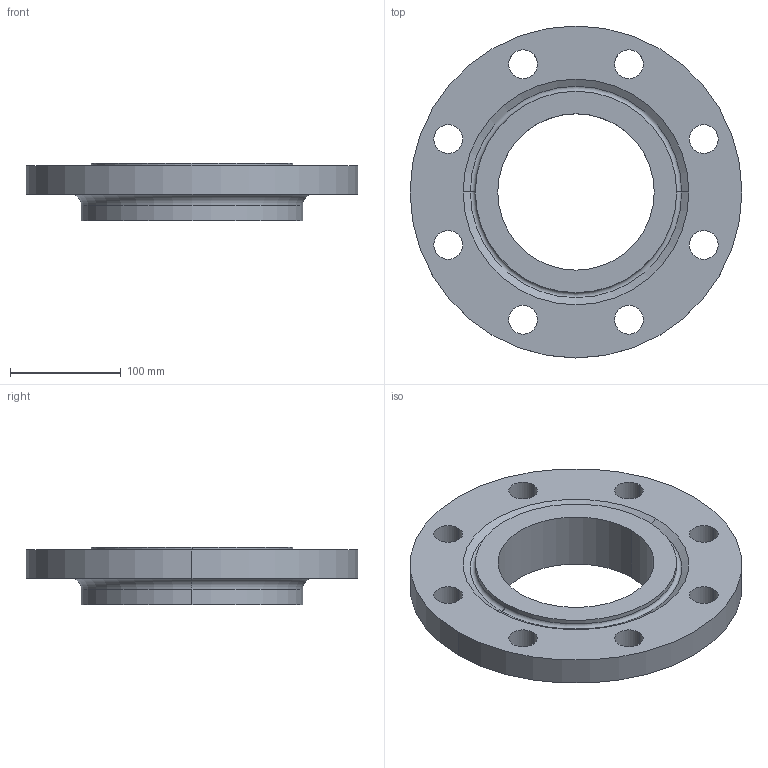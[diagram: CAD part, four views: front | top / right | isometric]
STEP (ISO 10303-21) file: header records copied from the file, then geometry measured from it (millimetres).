
FILE_DESCRIPTION (( 'STEP AP214' ), '1' );
FILE_NAME ('PN40 DN150 Type 13 - Type H Face.STEP', '2019-01-04T21:56:09', ( '' ), ( '' ), 'SwSTEP 2.0', 'SolidWorks 2019', '' );
FILE_SCHEMA (( 'AUTOMOTIVE_DESIGN' ));
Length unit declared in the file: millimetre
Products named in the file (1): PN40 DN150 Type 13 - Type H Face
Bounding box: 300 x 300 x 52 mm (x, y, z)
Volume: 1692296.7 mm3; surface area: 181757.5 mm2
Topology: 1 solids, 1 shells, 34 faces, 84 edges, 54 vertices
Faces by surface type: cylinder 24, torus 4, plane 4, cone 2
Entity records: 1108 total; most frequent: DIRECTION 212, CARTESIAN_POINT 173, ORIENTED_EDGE 168, AXIS2_PLACEMENT_3D 93, EDGE_CURVE 84, CIRCLE 58, VERTEX_POINT 54, EDGE_LOOP 54
